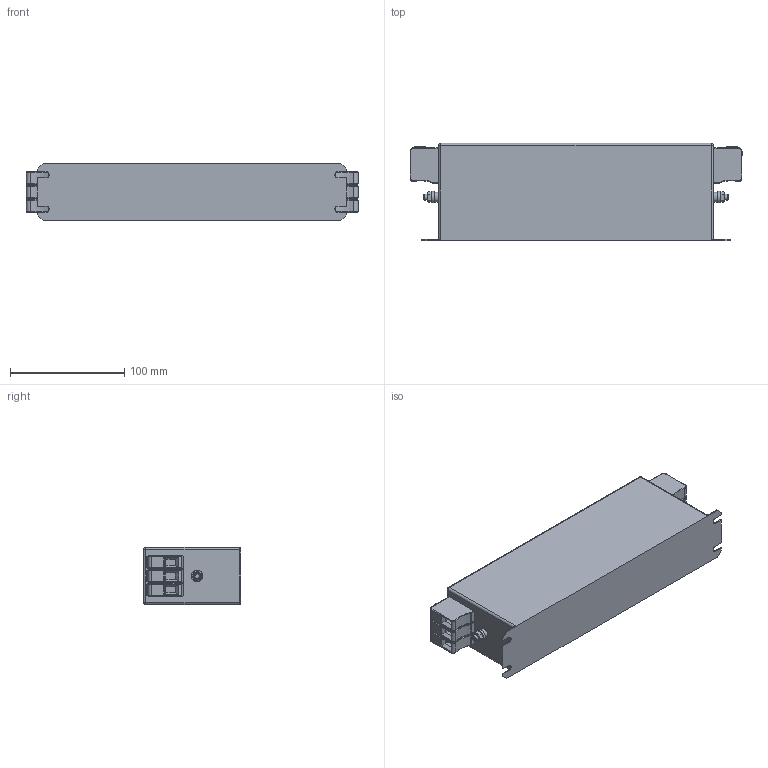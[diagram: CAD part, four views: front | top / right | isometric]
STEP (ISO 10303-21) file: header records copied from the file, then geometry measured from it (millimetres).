
FILE_DESCRIPTION((''),'2;1');
FILE_NAME('L:\INVENTOR_Projektedaten\HousingDesign\FN3258-30-33.stp','2012-10-05T09:35:33',('Samuel.Meier'),(''),'Autodesk Inventor 2010','Autodesk Inventor 2010','');
FILE_SCHEMA(('AUTOMOTIVE_DESIGN { 1 2 10303 214 0 1 1 1 }'));
Length unit declared in the file: millimetre
Products named in the file (1): Bauteil4
Bounding box: 290 x 85 x 50 mm (x, y, z)
Volume: 1066809.9 mm3; surface area: 89990.7 mm2
Topology: 1 solids, 3 shells, 528 faces, 1266 edges, 742 vertices
Faces by surface type: bspline 235, plane 146, cylinder 89, torus 36, sphere 16, cone 6
Full cylindrical faces by diameter (mm): 5 x2, 5.1 x3, 5.3 x2, 8.5 x1, 10 x5
Entity records: 17504 total; most frequent: CARTESIAN_POINT 5712, ORIENTED_EDGE 2368, DIRECTION 2182, EDGE_CURVE 1184, AXIS2_PLACEMENT_3D 740, VERTEX_POINT 730, VECTOR 702, LINE 702
